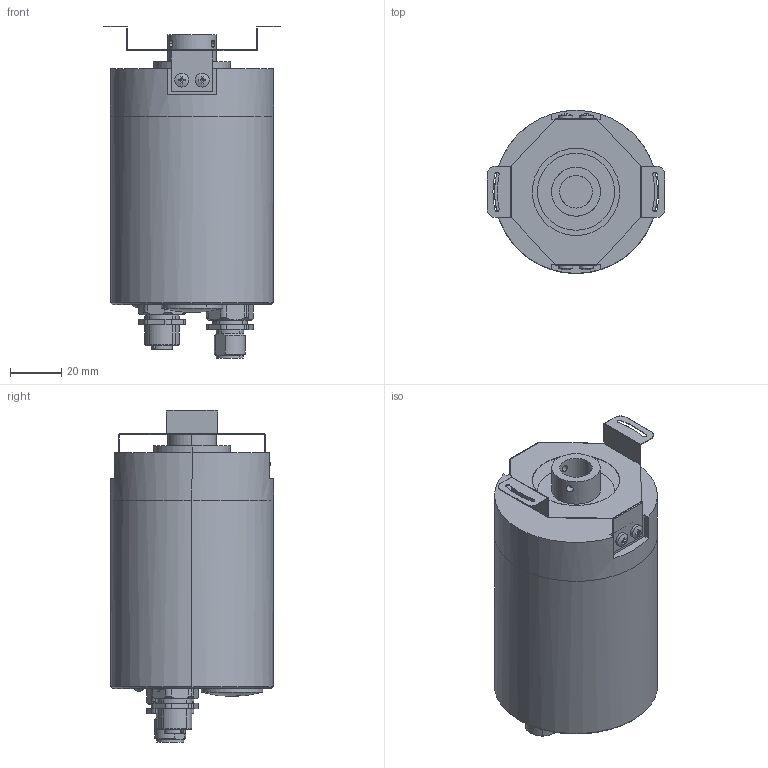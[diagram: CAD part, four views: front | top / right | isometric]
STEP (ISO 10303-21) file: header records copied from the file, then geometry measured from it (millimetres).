
FILE_DESCRIPTION (( 'STEP AP203' ), '1' );
FILE_NAME ('RM-90BA3E-9Bxxx-B2M12.step', '2015-02-03T14:23:10', ( 'Turck User' ), ( '' ), 'SwSTEP 2.0', 'SolidWorks 2014', '' );
FILE_SCHEMA (( 'CONFIG_CONTROL_DESIGN' ));
Length unit declared in the file: millimetre
Products named in the file (2): RM-90BA3E-9Bxxx-B2M12
Bounding box: 69 x 63.5 x 129.31 mm (x, y, z)
Volume: 300636.1 mm3; surface area: 34326.3 mm2
Topology: 1 solids, 7 shells, 471 faces, 1164 edges, 750 vertices
Faces by surface type: plane 234, cylinder 168, cone 52, bspline 13, torus 4
Entity records: 15060 total; most frequent: CARTESIAN_POINT 3702, ORIENTED_EDGE 2328, DIRECTION 2312, EDGE_CURVE 1164, AXIS2_PLACEMENT_3D 842, VERTEX_POINT 750, LINE 628, VECTOR 628
